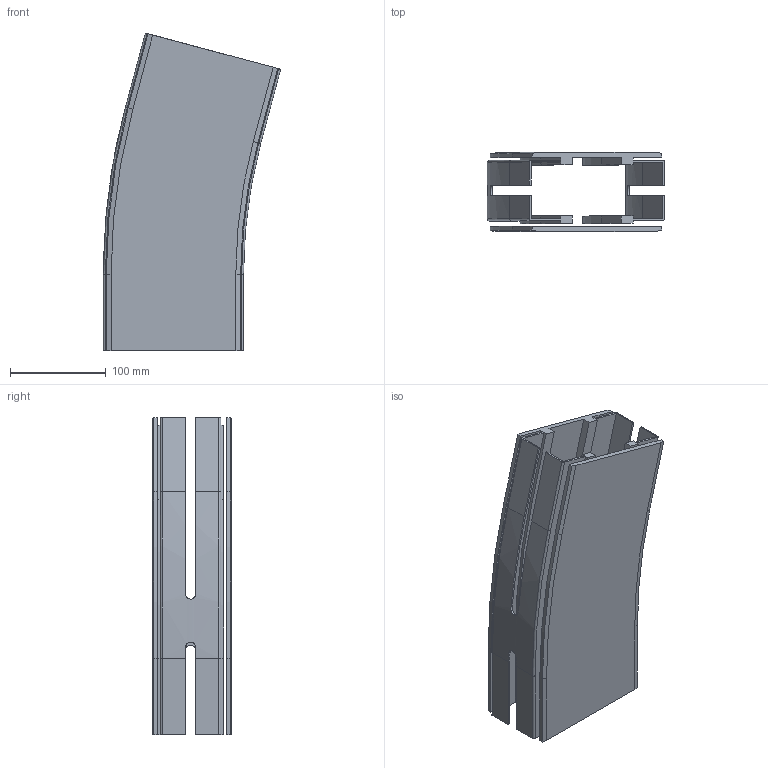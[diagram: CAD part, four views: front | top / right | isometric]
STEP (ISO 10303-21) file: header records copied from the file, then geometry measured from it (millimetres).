
FILE_DESCRIPTION(/* description */ ('GLIDKURVA SERIE 540'),/* implementation_level */ '2;1');
FILE_NAME(/* name */ '540-5375+140-2000-01.stp',/* time_stamp */ '2022-09-21T08:58:29+02:00',/* author */ ('Mathias.Dore'),/* organization */ ('CARRYLINE'),/* preprocessor_version */ 'ST-DEVELOPER v19.2',/* originating_system */ 'Autodesk Inventor 2023',/* authorisation */ '');
FILE_SCHEMA (('AUTOMOTIVE_DESIGN { 1 0 10303 214 3 1 1 }'));
Length unit declared in the file: millimetre
Products named in the file (1): 540-5375+140-2000-01
Bounding box: 184.66 x 82 x 331.46 mm (x, y, z)
Volume: 715469.8 mm3; surface area: 371050.7 mm2
Topology: 2 solids, 2 shells, 167 faces, 458 edges, 300 vertices
Faces by surface type: plane 113, cylinder 28, bspline 18, cone 4, torus 4
Entity records: 5641 total; most frequent: CARTESIAN_POINT 1348, ORIENTED_EDGE 916, DIRECTION 802, EDGE_CURVE 458, LINE 342, VECTOR 342, VERTEX_POINT 300, AXIS2_PLACEMENT_3D 230
